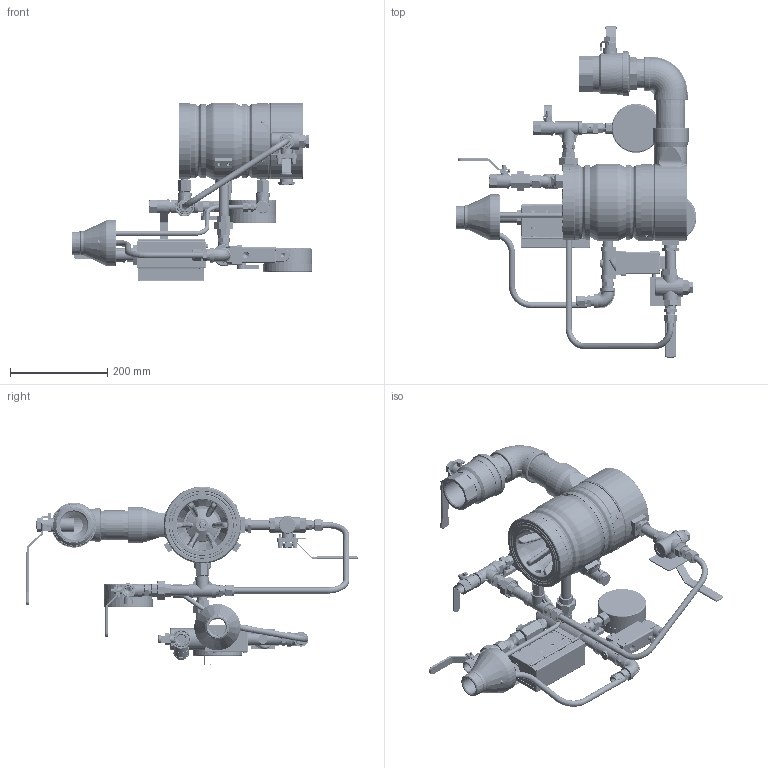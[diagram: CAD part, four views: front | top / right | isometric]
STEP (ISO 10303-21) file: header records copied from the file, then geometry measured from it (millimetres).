
FILE_DESCRIPTION(/* description */ (''),/* implementation_level */ '2;1');
FILE_NAME(/* name */ 'Z:\STANDARD SYSTEM\700DX-03C06\Step\799DX-03C06 FM UL Trim 4in.stp',/* time_stamp */ '2022-03-07T15:10:37+02:00',/* author */ ('alex'),/* organization */ (''),/* preprocessor_version */ 'ST-DEVELOPER v16.13',/* originating_system */ 'Autodesk Inventor 2018',/* authorisation */ '');
FILE_SCHEMA (('AUTOMOTIVE_DESIGN { 1 0 10303 214 3 1 1 }'));
Products named in the file (130): 799DX-03C06 FM UL Trim 4in; Plug 34 SS; 5840; 799DX 4in; GASKET4; 799D-4; 5385_ALBR; 5381; 3490; 4237; 4105; 5745; 4101; 4512; ANSI B18.22.1 - 1/2 - narrow - Type B; 6436_4inch; ISO 7380 - M4 x 8; 4681; 4105_MIR8; 3377-1; Solenoid-157 Assy; 157-61X; 157-61X Body; 151-7X; BODY BURKERT; BURKERT 330 COIL; BURKERT BUSH BUTTON; BURKERT CONDUIT; ISO 1207 - M 3 x 30; ISO 1207 - M 4 x 40; O'RING INCH; Q2611 - 1; Nipple 12x3,5 SS; 5375T; 31-08-01; BODY; COVER_31-08-01; 6244-1; 6245-1; 0-RING Ø12xØ3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
Assembly tree (169 placements, depth 5):
  799DX-03C06 FM UL Trim 4in
    Plug 34 SS
    Plug 12 SS  x3
    5840
    799DX 4in
      GASKET4
      799D-4
        5385_ALBR
        5381
        3490  x2
        4237  x2
        4105
        5745
        4101
        4512  x2
        ANSI B18.22.1 - 1/2 - narrow - Type B  x2
        6436_4inch
        ISO 7380 - M4 x 8  x2
        4681
        4105_MIR8
      3377-1
    Solenoid-157 Assy
      Nipple 12x2.5 SS
      157-61X
        157-61X Body
        151-7X
          BODY BURKERT
          BURKERT 330 COIL
          BURKERT BUSH BUTTON
          BURKERT CONDUIT
          ISO 1207 - M 3 x 30
          ISO 1207 - M 4 x 40  x4
    Q2611 - 1
    Nipple 12x3,5 SS
    5375T
    31-08-01
      BODY
      COVER_31-08-01
    6244-1
      6245-1
      0-RING Ø12xØ3
      DIN 472 - 18 x 1
      BALL OD14mm
      5214_
      6246
      6318
      0-RING2112
    Nipple 12 hex SS  x4
    Union 12 SS  x2
      Half Union 12M SS
      Half Union 12F SS
      Half Union F
    2072
      2073 rev01
        2073-1  rev01
        2073-2_with label
        2073-3
        2073-4
          2073-4-1 rev01
          SP-M5-1  x4
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Bounding box: 496.15 x 684.32 x 368.82 mm (x, y, z)
Volume: 4919679 mm3; surface area: 1577874.9 mm2
Topology: 154 solids, 155 shells, 4936 faces, 11862 edges, 7436 vertices
Faces by surface type: plane 2334, cone 977, cylinder 961, bspline 495, torus 162, sphere 7
Full cylindrical faces by diameter (mm): 0.625 x1, 2 x4, 2.487 x4, 2.693 x1, 3 x6, 3.242 x10, 3.571 x4, 4 x18, 4.1 x2, 4.134 x8, 4.5 x4, 4.978 x4, 5 x15, 5.25 x2, 5.5 x5, 5.8 x4, 6 x2, 6.33 x4, 6.35 x2, 6.4 x4, 6.5 x2, 6.647 x1, 6.88 x2, 7 x9, 7.036 x3, 7.3 x1, 7.5 x2, 7.515 x4, 7.6 x4, 7.715 x4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
Entity records: 120584 total; most frequent: CARTESIAN_POINT 34970, ORIENTED_EDGE 16364, DIRECTION 16198, EDGE_CURVE 8164, AXIS2_PLACEMENT_3D 6024, VERTEX_POINT 5508, EDGE_LOOP 4840, LINE 4150
